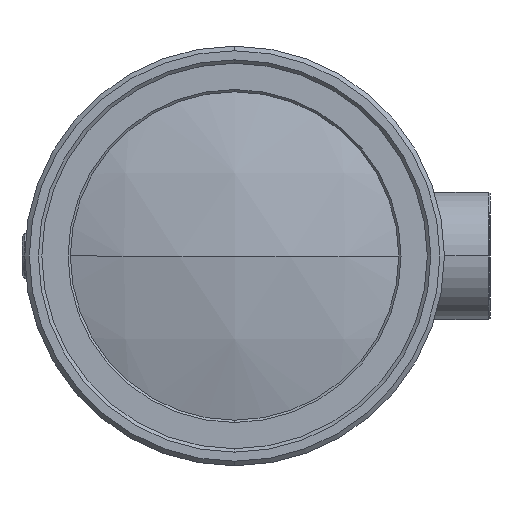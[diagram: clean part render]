
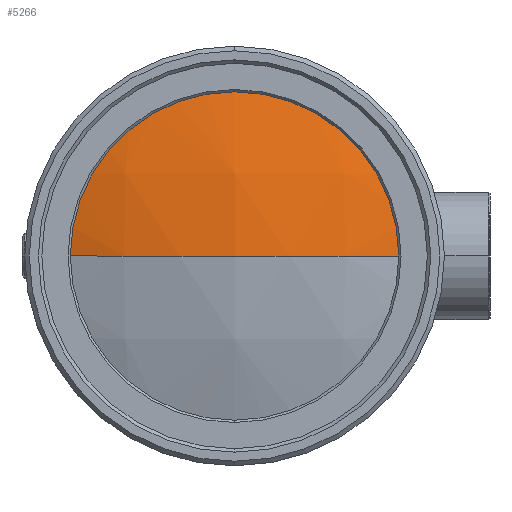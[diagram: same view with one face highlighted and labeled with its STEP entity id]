
A CAD part, left-side view. The second image highlights one B-rep face of the part: STEP entity #5266.
In plain terms, the highlighted spherical face has radius 56.6 mm.
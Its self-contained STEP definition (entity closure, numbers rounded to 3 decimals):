
#64 = ORIENTED_EDGE ( 'NONE', *, *, #570, .T. ) ;
#234 = DIRECTION ( 'NONE',  ( 0., 0., 1. ) ) ;
#260 = VERTEX_POINT ( 'NONE', #6235 ) ;
#527 = CARTESIAN_POINT ( 'NONE',  ( 436.038, 300., 0. ) ) ;
#570 = EDGE_CURVE ( 'NONE', #4800, #260, #6617, .T. ) ;
#654 = VERTEX_POINT ( 'NONE', #4112 ) ;
#1205 = ORIENTED_EDGE ( 'NONE', *, *, #2840, .T. ) ;
#1463 = AXIS2_PLACEMENT_3D ( 'NONE', #3689, #3183, #3211 ) ;
#1542 = CIRCLE ( 'NONE', #1463, 56.6 ) ;
#1687 = DIRECTION ( 'NONE',  ( -1., 0., 0. ) ) ;
#1857 = AXIS2_PLACEMENT_3D ( 'NONE', #6537, #6580, #4447 ) ;
#1915 = CARTESIAN_POINT ( 'NONE',  ( 436.038, 300., 0. ) ) ;
#2080 = EDGE_CURVE ( 'NONE', #4739, #260, #1542, .T. ) ;
#2252 = EDGE_LOOP ( 'NONE', ( #1205, #6092, #64, #3581 ) ) ;
#2840 = EDGE_CURVE ( 'NONE', #4739, #654, #4526, .T. ) ;
#3183 = DIRECTION ( 'NONE',  ( 0., 0., -1. ) ) ;
#3211 = DIRECTION ( 'NONE',  ( -1., 0., 0. ) ) ;
#3581 = ORIENTED_EDGE ( 'NONE', *, *, #2080, .F. ) ;
#3689 = CARTESIAN_POINT ( 'NONE',  ( 436.038, 300., 0. ) ) ;
#3772 = EDGE_CURVE ( 'NONE', #654, #4800, #6061, .T. ) ;
#4112 = CARTESIAN_POINT ( 'NONE',  ( 382.376, 300., 18. ) ) ;
#4143 = DIRECTION ( 'NONE',  ( 0., -1., 0. ) ) ;
#4183 = FACE_OUTER_BOUND ( 'NONE', #2252, .T. ) ;
#4433 = DIRECTION ( 'NONE',  ( 0., -1., 0. ) ) ;
#4447 = DIRECTION ( 'NONE',  ( 0., 0., 1. ) ) ;
#4526 = CIRCLE ( 'NONE', #1857, 18. ) ;
#4590 = SPHERICAL_SURFACE ( 'NONE', #6394, 56.6 ) ;
#4651 = CARTESIAN_POINT ( 'NONE',  ( 382.376, 282., 0. ) ) ;
#4739 = VERTEX_POINT ( 'NONE', #4651 ) ;
#4800 = VERTEX_POINT ( 'NONE', #5743 ) ;
#5184 = DIRECTION ( 'NONE',  ( 0., 0., 1. ) ) ;
#5266 = ADVANCED_FACE ( 'NONE', ( #4183 ), #4590, .T. ) ;
#5325 = CARTESIAN_POINT ( 'NONE',  ( 382.376, 300., 0. ) ) ;
#5500 = AXIS2_PLACEMENT_3D ( 'NONE', #1915, #6066, #4433 ) ;
#5642 = AXIS2_PLACEMENT_3D ( 'NONE', #5325, #1687, #234 ) ;
#5743 = CARTESIAN_POINT ( 'NONE',  ( 382.376, 318., 0. ) ) ;
#6061 = CIRCLE ( 'NONE', #5642, 18. ) ;
#6066 = DIRECTION ( 'NONE',  ( 0., 0., 1. ) ) ;
#6092 = ORIENTED_EDGE ( 'NONE', *, *, #3772, .T. ) ;
#6235 = CARTESIAN_POINT ( 'NONE',  ( 379.438, 300., 0. ) ) ;
#6394 = AXIS2_PLACEMENT_3D ( 'NONE', #527, #5184, #4143 ) ;
#6537 = CARTESIAN_POINT ( 'NONE',  ( 382.376, 300., 0. ) ) ;
#6580 = DIRECTION ( 'NONE',  ( -1., 0., 0. ) ) ;
#6617 = CIRCLE ( 'NONE', #5500, 56.6 ) ;
